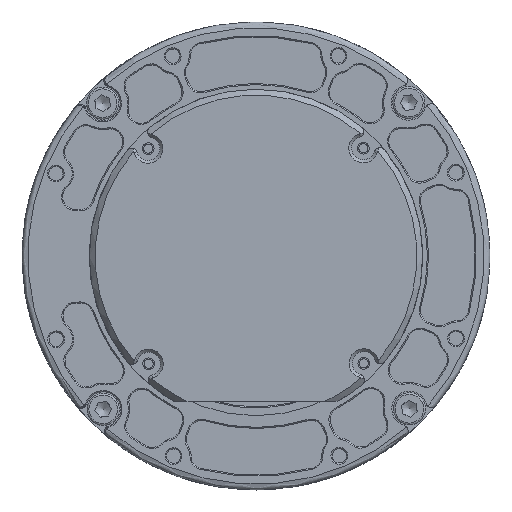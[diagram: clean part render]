
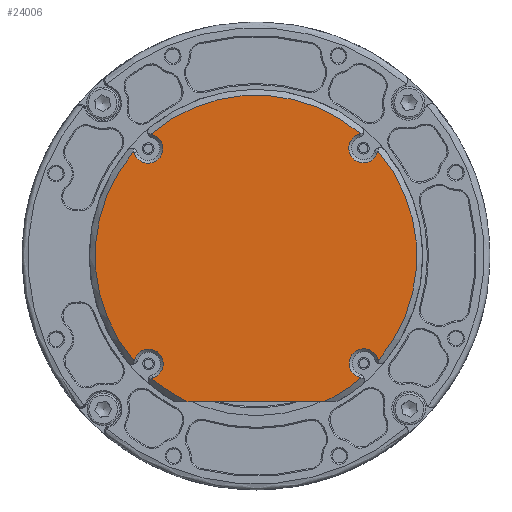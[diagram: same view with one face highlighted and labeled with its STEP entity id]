
A CAD part, left-side view. The second image highlights one B-rep face of the part: STEP entity #24006.
In plain terms, the highlighted planar face has unit normal (-1, 0, 0).
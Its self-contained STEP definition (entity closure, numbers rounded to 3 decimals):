
#1130=PLANE('',#27062);
#2469=FACE_OUTER_BOUND('',#4017,.T.);
#4017=EDGE_LOOP('',(#21823,#21824,#21825,#21826,#21827,#21828,#21829,#21830,
#21831,#21832,#21833,#21834,#21835,#21836,#21837,#21838,#21839,#21840));
#5718=LINE('',#42962,#7421);
#7421=VECTOR('',#34673,10.);
#9084=CIRCLE('',#27041,27.5);
#9096=CIRCLE('',#27063,0.5);
#9097=CIRCLE('',#27064,2.5);
#9098=CIRCLE('',#27065,0.5);
#9099=CIRCLE('',#27066,27.5);
#9100=CIRCLE('',#27067,0.5);
#9101=CIRCLE('',#27068,2.5);
#9102=CIRCLE('',#27069,0.5);
#9103=CIRCLE('',#27070,27.5);
#9104=CIRCLE('',#27071,0.5);
#9105=CIRCLE('',#27072,2.5);
#9106=CIRCLE('',#27073,0.5);
#9107=CIRCLE('',#27074,27.5);
#9108=CIRCLE('',#27075,0.5);
#9109=CIRCLE('',#27076,2.5);
#9110=CIRCLE('',#27077,0.5);
#9111=CIRCLE('',#27078,27.5);
#11356=VERTEX_POINT('',#42942);
#11357=VERTEX_POINT('',#42949);
#11360=VERTEX_POINT('',#42961);
#11380=VERTEX_POINT('',#43020);
#11381=VERTEX_POINT('',#43022);
#11382=VERTEX_POINT('',#43024);
#11383=VERTEX_POINT('',#43026);
#11384=VERTEX_POINT('',#43028);
#11385=VERTEX_POINT('',#43030);
#11386=VERTEX_POINT('',#43032);
#11387=VERTEX_POINT('',#43034);
#11388=VERTEX_POINT('',#43036);
#11389=VERTEX_POINT('',#43038);
#11390=VERTEX_POINT('',#43040);
#11391=VERTEX_POINT('',#43042);
#11392=VERTEX_POINT('',#43044);
#11393=VERTEX_POINT('',#43046);
#11394=VERTEX_POINT('',#43048);
#14842=EDGE_CURVE('',#11357,#11356,#9084,.T.);
#14847=EDGE_CURVE('',#11357,#11360,#5718,.T.);
#14876=EDGE_CURVE('',#11356,#11380,#9096,.T.);
#14877=EDGE_CURVE('',#11380,#11381,#9097,.T.);
#14878=EDGE_CURVE('',#11381,#11382,#9098,.T.);
#14879=EDGE_CURVE('',#11382,#11383,#9099,.T.);
#14880=EDGE_CURVE('',#11383,#11384,#9100,.T.);
#14881=EDGE_CURVE('',#11384,#11385,#9101,.T.);
#14882=EDGE_CURVE('',#11385,#11386,#9102,.T.);
#14883=EDGE_CURVE('',#11386,#11387,#9103,.T.);
#14884=EDGE_CURVE('',#11387,#11388,#9104,.T.);
#14885=EDGE_CURVE('',#11388,#11389,#9105,.T.);
#14886=EDGE_CURVE('',#11389,#11390,#9106,.T.);
#14887=EDGE_CURVE('',#11390,#11391,#9107,.T.);
#14888=EDGE_CURVE('',#11391,#11392,#9108,.T.);
#14889=EDGE_CURVE('',#11392,#11393,#9109,.T.);
#14890=EDGE_CURVE('',#11393,#11394,#9110,.T.);
#14891=EDGE_CURVE('',#11394,#11360,#9111,.T.);
#21823=ORIENTED_EDGE('',*,*,#14847,.F.);
#21824=ORIENTED_EDGE('',*,*,#14842,.T.);
#21825=ORIENTED_EDGE('',*,*,#14876,.T.);
#21826=ORIENTED_EDGE('',*,*,#14877,.T.);
#21827=ORIENTED_EDGE('',*,*,#14878,.T.);
#21828=ORIENTED_EDGE('',*,*,#14879,.T.);
#21829=ORIENTED_EDGE('',*,*,#14880,.T.);
#21830=ORIENTED_EDGE('',*,*,#14881,.T.);
#21831=ORIENTED_EDGE('',*,*,#14882,.T.);
#21832=ORIENTED_EDGE('',*,*,#14883,.T.);
#21833=ORIENTED_EDGE('',*,*,#14884,.T.);
#21834=ORIENTED_EDGE('',*,*,#14885,.T.);
#21835=ORIENTED_EDGE('',*,*,#14886,.T.);
#21836=ORIENTED_EDGE('',*,*,#14887,.T.);
#21837=ORIENTED_EDGE('',*,*,#14888,.T.);
#21838=ORIENTED_EDGE('',*,*,#14889,.T.);
#21839=ORIENTED_EDGE('',*,*,#14890,.T.);
#21840=ORIENTED_EDGE('',*,*,#14891,.T.);
#24006=ADVANCED_FACE('',(#2469),#1130,.T.);
#27041=AXIS2_PLACEMENT_3D('',#42950,#34664,#34665);
#27062=AXIS2_PLACEMENT_3D('',#43019,#34726,#34727);
#27063=AXIS2_PLACEMENT_3D('',#43021,#34728,#34729);
#27064=AXIS2_PLACEMENT_3D('',#43023,#34730,#34731);
#27065=AXIS2_PLACEMENT_3D('',#43025,#34732,#34733);
#27066=AXIS2_PLACEMENT_3D('',#43027,#34734,#34735);
#27067=AXIS2_PLACEMENT_3D('',#43029,#34736,#34737);
#27068=AXIS2_PLACEMENT_3D('',#43031,#34738,#34739);
#27069=AXIS2_PLACEMENT_3D('',#43033,#34740,#34741);
#27070=AXIS2_PLACEMENT_3D('',#43035,#34742,#34743);
#27071=AXIS2_PLACEMENT_3D('',#43037,#34744,#34745);
#27072=AXIS2_PLACEMENT_3D('',#43039,#34746,#34747);
#27073=AXIS2_PLACEMENT_3D('',#43041,#34748,#34749);
#27074=AXIS2_PLACEMENT_3D('',#43043,#34750,#34751);
#27075=AXIS2_PLACEMENT_3D('',#43045,#34752,#34753);
#27076=AXIS2_PLACEMENT_3D('',#43047,#34754,#34755);
#27077=AXIS2_PLACEMENT_3D('',#43049,#34756,#34757);
#27078=AXIS2_PLACEMENT_3D('',#43050,#34758,#34759);
#34664=DIRECTION('center_axis',(-1.,0.,0.));
#34665=DIRECTION('ref_axis',(0.,0.,-1.));
#34673=DIRECTION('',(0.,-1.,0.));
#34726=DIRECTION('center_axis',(-1.,0.,0.));
#34727=DIRECTION('ref_axis',(0.,0.,1.));
#34728=DIRECTION('center_axis',(-1.,0.,0.));
#34729=DIRECTION('ref_axis',(0.,0.,1.));
#34730=DIRECTION('center_axis',(1.,0.,0.));
#34731=DIRECTION('ref_axis',(0.,0.,1.));
#34732=DIRECTION('center_axis',(-1.,0.,0.));
#34733=DIRECTION('ref_axis',(0.,0.,1.));
#34734=DIRECTION('center_axis',(-1.,0.,0.));
#34735=DIRECTION('ref_axis',(0.,0.,-1.));
#34736=DIRECTION('center_axis',(-1.,0.,0.));
#34737=DIRECTION('ref_axis',(0.,0.,1.));
#34738=DIRECTION('center_axis',(1.,0.,0.));
#34739=DIRECTION('ref_axis',(0.,0.,1.));
#34740=DIRECTION('center_axis',(-1.,0.,0.));
#34741=DIRECTION('ref_axis',(0.,0.,1.));
#34742=DIRECTION('center_axis',(-1.,0.,0.));
#34743=DIRECTION('ref_axis',(0.,0.,-1.));
#34744=DIRECTION('center_axis',(-1.,0.,0.));
#34745=DIRECTION('ref_axis',(0.,0.,1.));
#34746=DIRECTION('center_axis',(1.,0.,0.));
#34747=DIRECTION('ref_axis',(0.,0.,1.));
#34748=DIRECTION('center_axis',(-1.,0.,0.));
#34749=DIRECTION('ref_axis',(0.,0.,1.));
#34750=DIRECTION('center_axis',(-1.,0.,0.));
#34751=DIRECTION('ref_axis',(0.,0.,-1.));
#34752=DIRECTION('center_axis',(-1.,0.,0.));
#34753=DIRECTION('ref_axis',(0.,0.,1.));
#34754=DIRECTION('center_axis',(1.,0.,0.));
#34755=DIRECTION('ref_axis',(0.,0.,1.));
#34756=DIRECTION('center_axis',(-1.,0.,0.));
#34757=DIRECTION('ref_axis',(0.,0.,1.));
#34758=DIRECTION('center_axis',(-1.,0.,0.));
#34759=DIRECTION('ref_axis',(0.,0.,-1.));
#42942=CARTESIAN_POINT('',(951.494,1272.841,20.92));
#42949=CARTESIAN_POINT('',(951.494,1266.663,24.9));
#42950=CARTESIAN_POINT('Origin',(951.494,1254.991,0.));
#42961=CARTESIAN_POINT('',(951.494,1243.319,24.9));
#42962=CARTESIAN_POINT('',(951.494,1277.698,24.9));
#43019=CARTESIAN_POINT('Origin',(951.494,1282.491,0.));
#43020=CARTESIAN_POINT('',(951.494,1272.61,20.765));
#43021=CARTESIAN_POINT('Origin',(951.494,1272.457,21.241));
#43022=CARTESIAN_POINT('',(951.494,1275.756,17.62));
#43023=CARTESIAN_POINT('Origin',(951.494,1273.376,18.385));
#43024=CARTESIAN_POINT('',(951.494,1275.911,17.85));
#43025=CARTESIAN_POINT('Origin',(951.494,1276.232,17.467));
#43026=CARTESIAN_POINT('',(951.494,1275.911,-17.85));
#43027=CARTESIAN_POINT('Origin',(951.494,1254.991,0.));
#43028=CARTESIAN_POINT('',(951.494,1275.756,-17.62));
#43029=CARTESIAN_POINT('Origin',(951.494,1276.232,-17.467));
#43030=CARTESIAN_POINT('',(951.494,1272.61,-20.765));
#43031=CARTESIAN_POINT('Origin',(951.494,1273.376,-18.385));
#43032=CARTESIAN_POINT('',(951.494,1272.841,-20.92));
#43033=CARTESIAN_POINT('Origin',(951.494,1272.457,-21.241));
#43034=CARTESIAN_POINT('',(951.494,1237.141,-20.92));
#43035=CARTESIAN_POINT('Origin',(951.494,1254.991,0.));
#43036=CARTESIAN_POINT('',(951.494,1237.371,-20.765));
#43037=CARTESIAN_POINT('Origin',(951.494,1237.524,-21.241));
#43038=CARTESIAN_POINT('',(951.494,1234.226,-17.62));
#43039=CARTESIAN_POINT('Origin',(951.494,1236.606,-18.385));
#43040=CARTESIAN_POINT('',(951.494,1234.071,-17.85));
#43041=CARTESIAN_POINT('Origin',(951.494,1233.75,-17.467));
#43042=CARTESIAN_POINT('',(951.494,1234.071,17.85));
#43043=CARTESIAN_POINT('Origin',(951.494,1254.991,0.));
#43044=CARTESIAN_POINT('',(951.494,1234.226,17.62));
#43045=CARTESIAN_POINT('Origin',(951.494,1233.75,17.467));
#43046=CARTESIAN_POINT('',(951.494,1237.371,20.765));
#43047=CARTESIAN_POINT('Origin',(951.494,1236.606,18.385));
#43048=CARTESIAN_POINT('',(951.494,1237.141,20.92));
#43049=CARTESIAN_POINT('Origin',(951.494,1237.524,21.241));
#43050=CARTESIAN_POINT('Origin',(951.494,1254.991,0.));
